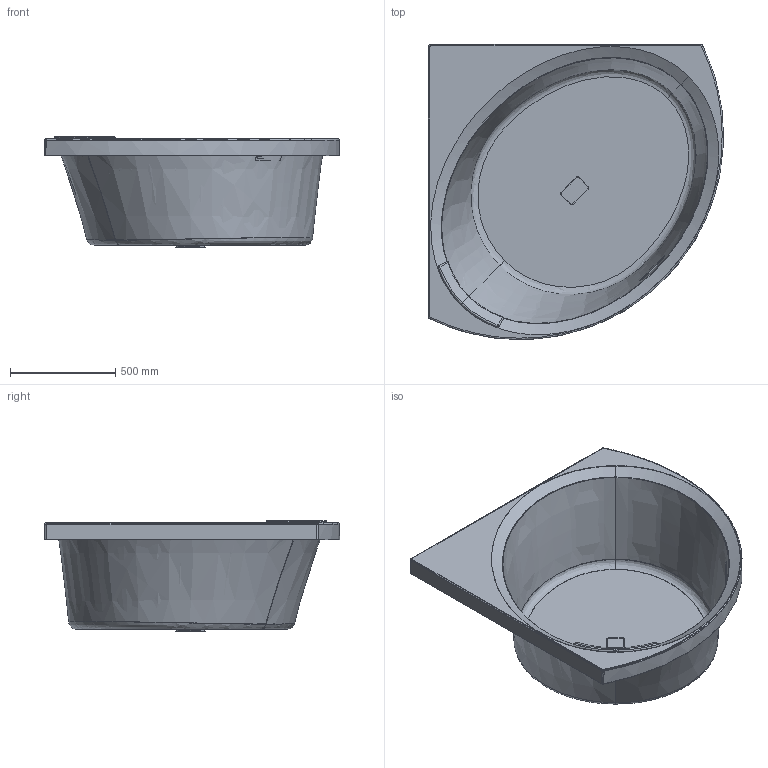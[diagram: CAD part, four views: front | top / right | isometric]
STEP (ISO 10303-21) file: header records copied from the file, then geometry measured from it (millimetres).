
FILE_DESCRIPTION(('STEP AP203'),'2;1');
FILE_NAME('DIV1140140.stp','2016-02-24T17:35:22',(''),(''),'2014.1.117','THINKDESIGN','');
FILE_SCHEMA(('CONFIG_CONTROL_DESIGN'));
Length unit declared in the file: millimetre
Bounding box: 1399.06 x 1399.06 x 524.28 mm (x, y, z)
Volume: 10889613.1 mm3; surface area: 7107162.4 mm2
Topology: 4 solids, 4 shells, 115 faces, 265 edges, 156 vertices
Faces by surface type: bspline 59, plane 34, cylinder 22
Entity records: 10863 total; most frequent: CARTESIAN_POINT 8497, ORIENTED_EDGE 512, DIRECTION 317, EDGE_CURVE 256, VERTEX_POINT 154, EDGE_LOOP 120, FACE_OUTER_BOUND 115, ADVANCED_FACE 115
